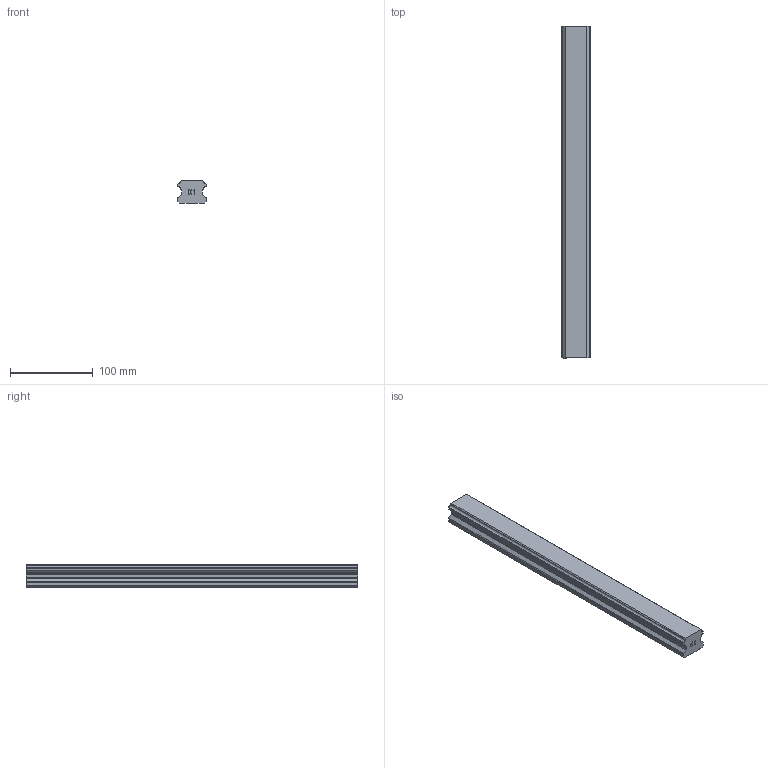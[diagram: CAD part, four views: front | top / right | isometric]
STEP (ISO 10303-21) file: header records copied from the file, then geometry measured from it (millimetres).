
FILE_DESCRIPTION(('no description'),'unknown implementation level');
FILE_NAME('EGR35T_400_H_4.stp',' ',('HIWIN GmbH'),('CADClick - KiM GmbH - www.kimweb.de'),'unknown preprocess','ACIS','unknown authorization');
FILE_SCHEMA(('CONFIG_CONTROL_DESIGN'));
Length unit declared in the file: millimetre
Products named in the file (1): 1
Bounding box: 34 x 400 x 27.5 mm (x, y, z)
Volume: 325004 mm3; surface area: 53943.3 mm2
Topology: 1 solids, 1 shells, 127 faces, 353 edges, 227 vertices
Faces by surface type: plane 89, cylinder 28, cone 10
Entity records: 3997 total; most frequent: CARTESIAN_POINT 698, ORIENTED_EDGE 686, DIRECTION 655, EDGE_CURVE 343, LINE 287, VECTOR 287, VERTEX_POINT 227, AXIS2_PLACEMENT_3D 184
